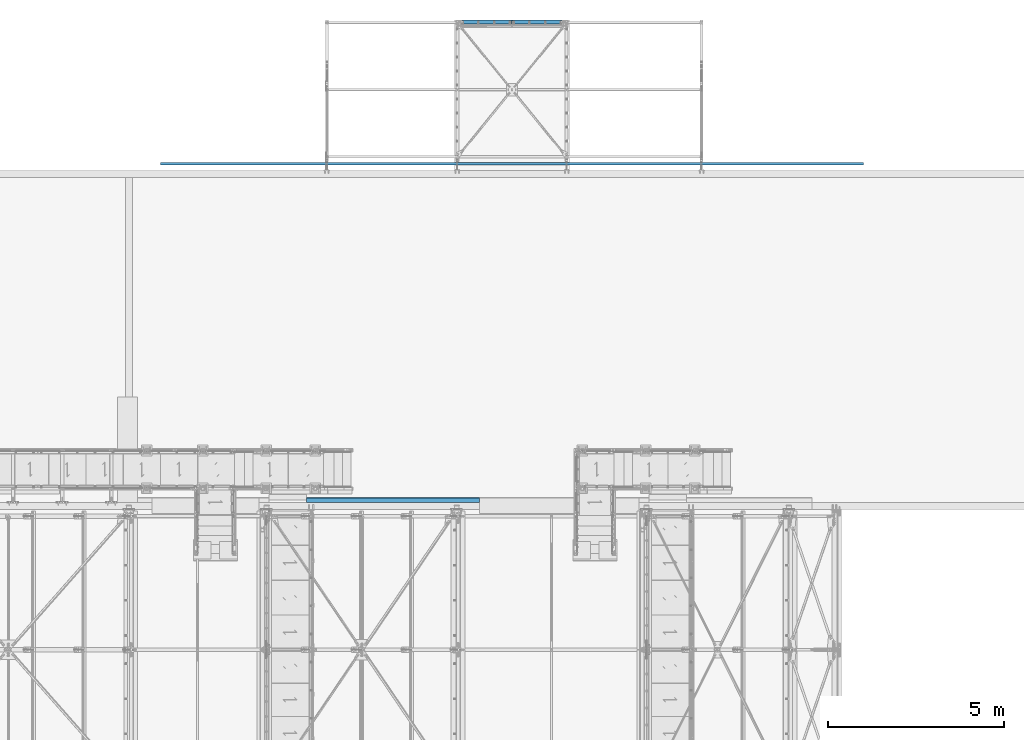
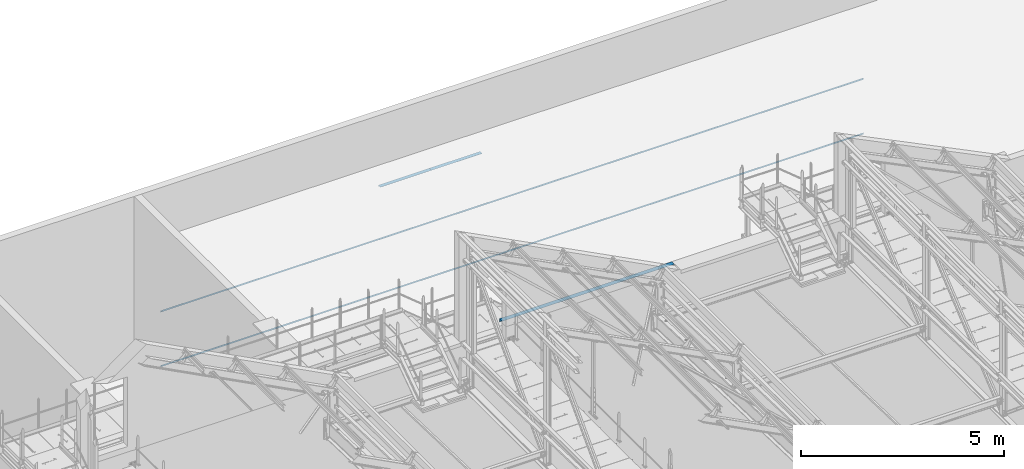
# One storey, part 349 of 362: 5 beams, 5 elements without a shape of their own.
"""IFC2X3 building model written with IfcOpenShell, lengths in millimetres."""

import ifcopenshell
import ifcopenshell.guid

model = None  # the IFC model being written
_history = None  # IfcOwnerHistory: only IFC2X3 demands one
_inside = {}  # id of a spatial element -> (the spatial element, [elements in it])
_under = {}  # id of a project, library or spatial element -> (it, [spatial elements below it])
_declared = {}  # id of a project -> (the project, [libraries it declares])
_typed = {}  # id of a type object -> (the type object, [elements of that type])
_made_of = {}  # id of a material, layer set ... -> (it, [elements and type objects made of it])


def new_model(schema):
    """Start an empty IFC model of exactly this schema.

    Asked for "IFC4X3", IfcOpenShell would pick the latest addendum, in which some entities
    have other attributes; the version numbers below select the first issue.
    IFC2X3 requires an IfcOwnerHistory on every rooted entity: one is made here for all.
    """
    global model, _history
    if schema == "IFC4X3":
        model = ifcopenshell.file(schema_version=(4, 3, 0, 0))
    else:
        model = ifcopenshell.file(schema=schema)
    _inside.clear()
    _under.clear()
    _declared.clear()
    _typed.clear()
    _made_of.clear()
    _history = None
    if model.schema == "IFC2X3":
        org = make("IfcOrganization", Name="unknown")
        user = make(
            "IfcPersonAndOrganization",
            ThePerson=make("IfcPerson", FamilyName="unknown"),
            TheOrganization=org,
        )
        app = make(
            "IfcApplication",
            ApplicationDeveloper=org,
            Version="unknown",
            ApplicationFullName="unknown",
            ApplicationIdentifier="unknown",
        )
        _history = make(
            "IfcOwnerHistory",
            OwningUser=user,
            OwningApplication=app,
            ChangeAction="ADDED",
            CreationDate=0,
        )
    return model


def make(cls, **values):
    """One entity of the class cls with the attributes given. An attribute that is None is left unset."""
    return model.create_entity(
        cls, **{name: value for name, value in values.items() if value is not None}
    )


def rooted(cls, **values):
    """An entity with a GlobalId (a new one), such as an element, a storey or a relation."""
    return make(cls, GlobalId=ifcopenshell.guid.new(), OwnerHistory=_history, **values)


def si_unit(unit_type, name, prefix=None):
    """IfcSIUnit, for example si_unit("LENGTHUNIT", "METRE", prefix="MILLI")."""
    return make("IfcSIUnit", UnitType=unit_type, Prefix=prefix, Name=name)


def assignment(units):
    """IfcUnitAssignment: the units of a project."""
    return None if units is None else make("IfcUnitAssignment", Units=units)


def point(xyz):
    """IfcCartesianPoint."""
    return None if xyz is None else make("IfcCartesianPoint", Coordinates=xyz)


def direction(xyz):
    """IfcDirection."""
    return None if xyz is None else make("IfcDirection", DirectionRatios=xyz)


def frame(location, z_axis=None, x_axis=None):
    """IfcAxis2Placement3D, a coordinate frame: its origin and axes. An axis left out is left unset."""
    return make(
        "IfcAxis2Placement3D",
        Location=point(location),
        Axis=direction(z_axis),
        RefDirection=direction(x_axis),
    )


def origin_with_axes():
    """The frame at (0, 0, 0) with the z axis (0, 0, 1) and the x axis (1, 0, 0) written out."""
    return frame((0.0, 0.0, 0.0), z_axis=(0.0, 0.0, 1.0), x_axis=(1.0, 0.0, 0.0))


def place(relative_to, where):
    """IfcLocalPlacement: puts the frame where relative to a parent placement (None: the world)."""
    return make(
        "IfcLocalPlacement", PlacementRelTo=relative_to, RelativePlacement=where
    )


def context(
    kind, dimensions, precision=None, world=None, true_north=None, identifier=None
):
    """IfcGeometricRepresentationContext, for example the 3D "Model" context."""
    return make(
        "IfcGeometricRepresentationContext",
        ContextIdentifier=identifier,
        ContextType=kind,
        CoordinateSpaceDimension=dimensions,
        Precision=precision,
        WorldCoordinateSystem=world,
        TrueNorth=true_north,
    )


def subcontext(parent, identifier, kind, view, scale=None):
    """IfcGeometricRepresentationSubContext, for example "Body" below "Model"."""
    return make(
        "IfcGeometricRepresentationSubContext",
        ContextIdentifier=identifier,
        ContextType=kind,
        ParentContext=parent,
        TargetScale=scale,
        TargetView=view,
    )


def project(units=None, contexts=None):
    """IfcProject with its units and contexts."""
    return rooted(
        "IfcProject",
        Name="project",
        RepresentationContexts=contexts,
        UnitsInContext=assignment(units),
    )


def spatial(cls, under=None, at=None, **own):
    """A site, building, storey or space (cls), placed at a placement, below another one or the project."""
    s = rooted(cls, ObjectPlacement=at, **own)
    if under is not None:
        _under.setdefault(under.id(), (under, []))[1].append(s)
    return s


def faces_of(points, faces, orient=None, outer=None):
    """IfcFace entities. A face is a list of loops; a loop is a list of indices into points, from 0.

    orient and outer hold one flag for each loop. By default every Orientation is true, the
    first loop of a face is its IfcFaceOuterBound and the others are IfcFaceBound.
    """
    made = []
    for i, loops in enumerate(faces):
        bounds = []
        for j, loop in enumerate(loops):
            is_outer = j == 0 if outer is None else outer[i][j]
            bounds.append(
                make(
                    "IfcFaceOuterBound" if is_outer else "IfcFaceBound",
                    Bound=make("IfcPolyLoop", Polygon=[points[k] for k in loop]),
                    Orientation=True if orient is None else orient[i][j],
                )
            )
        made.append(make("IfcFace", Bounds=bounds))
    return made


def faceted_brep(points, faces, orient=None, outer=None, voids=None):
    """IfcFacetedBrep: a solid bounded by flat faces; with voids (closed shells), ...WithVoids."""
    shared = [point(p) for p in points]
    hull = make("IfcClosedShell", CfsFaces=faces_of(shared, faces, orient, outer))
    if voids is None:
        return make("IfcFacetedBrep", Outer=hull)
    return make(
        "IfcFacetedBrepWithVoids",
        Outer=hull,
        Voids=[
            make(cls, CfsFaces=faces_of(shared, fs, o, b)) for cls, fs, o, b in voids
        ],
    )


def shape(context_of_items, identifier, shape_type, items):
    """IfcShapeRepresentation: the items that make up one representation, for example the "Body"."""
    return make(
        "IfcShapeRepresentation",
        ContextOfItems=context_of_items,
        RepresentationIdentifier=identifier,
        RepresentationType=shape_type,
        Items=items,
    )


def material(Name=None, Category=None):
    """IfcMaterial."""
    return make("IfcMaterial", Name=Name, Category=Category)


def made_of(thing, what):
    """Note that an element or type object is made of a material, layer set ...; save() writes the relation."""
    if what is not None:
        _made_of.setdefault(what.id(), (what, []))[1].append(thing)
    return thing


def type_object(cls, material=None, **own):
    """A type object (cls), such as IfcWallType, which elements share."""
    return made_of(rooted(cls, **own), material)


def element(
    cls,
    number,
    at=None,
    inside=None,
    cuts=None,
    type_object=None,
    material=None,
    context=None,
    identifier="Body",
    shape_type=None,
    held_by="IfcProductDefinitionShape",
    body=None,
    shapes=None,
    **own,
):
    """One element of the class cls, such as IfcWall. Its Tag is "e" and its number.

    at: its placement. inside: the storey or other place that contains it. cuts: it is an
    opening in that element (IfcRelVoidsElement). A single representation is given by context,
    identifier, shape_type and body (its items); several are given by shapes. held_by: the class
    of the entity that holds the representations. save() writes the other relations.
    """
    e = rooted(cls, Tag="e%d" % number, ObjectPlacement=at, **own)
    if body is not None:
        shapes = [shape(context, identifier, shape_type, body)]
    if shapes is not None:
        e.Representation = make(held_by, Representations=shapes)
    if inside is not None:
        _inside.setdefault(inside.id(), (inside, []))[1].append(e)
    if cuts is not None:
        rooted(
            "IfcRelVoidsElement", RelatingBuildingElement=cuts, RelatedOpeningElement=e
        )
    if type_object is not None:
        _typed.setdefault(type_object.id(), (type_object, []))[1].append(e)
    return made_of(e, material)


def aggregate(whole, parts):
    """IfcRelAggregates: a whole, such as a stair, and the parts it consists of."""
    return rooted("IfcRelAggregates", RelatingObject=whole, RelatedObjects=parts)


def save(model, path):
    """Write the relations noted so far, then the file.

    IfcRelAggregates (storeys below a building ...), IfcRelContainedInSpatialStructure (elements
    in a storey), IfcRelDefinesByType, IfcRelAssociatesMaterial and IfcRelDeclares: one each for
    every whole, place, type object, material and project.
    """
    for whole, parts in _under.values():
        aggregate(whole, parts)
    for where, things in _inside.values():
        rooted(
            "IfcRelContainedInSpatialStructure",
            RelatedElements=things,
            RelatingStructure=where,
        )
    for kind, things in _typed.values():
        rooted("IfcRelDefinesByType", RelatedObjects=things, RelatingType=kind)
    for what, things in _made_of.values():
        rooted("IfcRelAssociatesMaterial", RelatedObjects=things, RelatingMaterial=what)
    for by, libraries in _declared.values():
        rooted("IfcRelDeclares", RelatingContext=by, RelatedDefinitions=libraries)
    model.write(path)


model = new_model("IFC2X3")

# Units and contexts
model_context = context("Model", 3, precision=1e-05, world=origin_with_axes())
body_context = subcontext(model_context, "Body", "Model", "MODEL_VIEW")
ifc_project = project(units=[si_unit("LENGTHUNIT", "METRE", prefix="MILLI"), si_unit("AREAUNIT", "SQUARE_METRE"), si_unit("VOLUMEUNIT", "CUBIC_METRE"), si_unit("MASSUNIT", "GRAM", prefix="KILO"), si_unit("TIMEUNIT", "SECOND"), si_unit("PLANEANGLEUNIT", "RADIAN"), si_unit("SOLIDANGLEUNIT", "STERADIAN"), si_unit("THERMODYNAMICTEMPERATUREUNIT", "DEGREE_CELSIUS"), si_unit("LUMINOUSINTENSITYUNIT", "LUMEN")], contexts=[model_context])

# Site, building, storey
site_placement = place(None, origin_with_axes())
site = spatial("IfcSite", under=ifc_project, at=site_placement, Name="Undefined", CompositionType="ELEMENT")
building_placement = place(site_placement, origin_with_axes())
building = spatial("IfcBuilding", under=site, at=building_placement, Name="Undefined", CompositionType="ELEMENT")
storey_placement = place(building_placement, origin_with_axes())
storey = spatial("IfcBuildingStorey", under=building, at=storey_placement, Name="Undefined", CompositionType="ELEMENT", Elevation=0.0)

# Assembly, beam
assembly_1_placement = place(storey_placement, origin_with_axes())
assembly_1 = element("IfcElementAssembly", 1, at=assembly_1_placement, inside=storey, AssemblyPlace="NOTDEFINED", PredefinedType="NOTDEFINED")
ifc_material = material(Name="Undefined/S235-E24")
beam_type_1 = type_object("IfcBeamType", Name="PL1*4921.5", PredefinedType="NOTDEFINED")
beam_1_placement = place(assembly_1_placement, frame((27062.2500000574, 15725.5518131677, 8490.00255378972), z_axis=(-1.0, 0.0, 0.0), x_axis=(0.0, -0.104503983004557, 0.994524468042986)))
beam_1 = element("IfcBeam", 2, at=beam_1_placement, type_object=beam_type_1, material=ifc_material, Name="COIFFE", ObjectType="PL1*4921.5", context=body_context, shape_type="Brep", body=[
    faceted_brep([(1.21872290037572e-10, -0.5, -2460.75), (1.21872290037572e-10, -0.5, 2460.75), (-1.24600774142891e-10, 0.5, 2460.75), (-1.24600774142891e-10, 0.5, -2460.75), (9.99994928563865, 0.500000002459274, 2460.75), (9.99994928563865, 0.500000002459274, -2460.75), (10.0523447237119, -0.499999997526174, -2460.75), (10.0523447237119, -0.499999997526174, 2460.75), (99.5071476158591, 9.90535807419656, 2460.75), (99.5071476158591, 9.90535807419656, -2460.75), (98.6389784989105, 8.80862575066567, -2460.75), (98.6389784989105, 8.80862575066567, 2460.75), (116.598834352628, -124.046522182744, 2460.75), (116.598834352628, -124.046522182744, -2460.75), (115.606876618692, -124.173091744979, 2460.75), (115.606876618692, -124.173091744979, -2460.75)], [[[0, 1, 2, 3]], [[3, 2, 4, 5]], [[1, 0, 6, 7]], [[5, 4, 8, 9]], [[7, 6, 10, 11]], [[9, 8, 12, 13]], [[8, 4, 2, 1, 7, 11, 14, 12]], [[11, 10, 15, 14]], [[10, 6, 0, 3, 5, 9, 13, 15]], [[14, 15, 13, 12]]]),
])
aggregate(assembly_1, [beam_1])

assembly_2_placement = place(storey_placement, origin_with_axes())
assembly_2 = element("IfcElementAssembly", 3, at=assembly_2_placement, inside=storey, AssemblyPlace="NOTDEFINED", PredefinedType="NOTDEFINED")
beam_type_2 = type_object("IfcBeamType", Name="PL1*20000", PredefinedType="NOTDEFINED")
beam_2_placement = place(assembly_2_placement, frame((30452.9999822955, 25256.8676920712, 4458.83811292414), z_axis=(-1.0, 0.0, 0.0), x_axis=(0.0, 0.707106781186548, -0.707106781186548)))
beam_2 = element("IfcBeam", 4, at=beam_2_placement, type_object=beam_type_2, material=ifc_material, Name="BAVETTE", ObjectType="PL1*20000", context=body_context, shape_type="Brep", body=[
    faceted_brep([(-4.21823642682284e-09, -0.499999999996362, -10000.0), (4.21459844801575e-09, -0.5, 10000.0), (4.22005541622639e-09, 0.499999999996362, 10000.0), (-4.2127794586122e-09, 0.5, -10000.0), (11.9999994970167, 0.49999999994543, 10000.0), (11.9999994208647, 0.49999999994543, -10000.0), (9.58583235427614, -0.500000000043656, -10000.0), (9.58583243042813, -0.500000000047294, 10000.0), (-23.3547165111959, -34.8556789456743, 9999.99999999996), (-23.3547164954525, -34.8556789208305, -10000.0), (-23.4070299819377, -33.4937610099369, -10000.0), (-23.4070299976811, -33.4937610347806, 9999.99999999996), (-72.852191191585, 7.57072793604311, 9999.99999999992), (-72.8521911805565, 7.57072794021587, -10000.0000000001), (-72.9044950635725, 8.93263761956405, -10000.0000000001), (-72.9044950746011, 8.93263761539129, 9999.99999999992), (-108.207530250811, -27.7846111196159, 9999.99999999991), (-108.207530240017, -27.7846111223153, -10000.0000000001), (-108.914637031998, -27.0775043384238, 9999.99999999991), (-108.914637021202, -27.0775043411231, -10000.0000000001)], [[[0, 1, 2, 3]], [[3, 2, 4, 5]], [[1, 0, 6, 7]], [[5, 4, 8, 9]], [[7, 6, 10, 11]], [[9, 8, 12, 13]], [[11, 10, 14, 15]], [[13, 12, 16, 17]], [[12, 8, 4, 2, 1, 7, 11, 15, 18, 16]], [[15, 14, 19, 18]], [[14, 10, 6, 0, 3, 5, 9, 13, 17, 19]], [[18, 19, 17, 16]]]),
])
aggregate(assembly_2, [beam_2])

assembly_3_placement = place(storey_placement, origin_with_axes())
assembly_3 = element("IfcElementAssembly", 5, at=assembly_3_placement, inside=storey, AssemblyPlace="NOTDEFINED", PredefinedType="NOTDEFINED")
beam_3_placement = place(assembly_3_placement, frame((30452.9999822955, 25256.8676920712, 2808.83811292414), z_axis=(-1.0, 0.0, 0.0), x_axis=(0.0, 0.707106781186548, -0.707106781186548)))
beam_3 = element("IfcBeam", 6, at=beam_3_placement, type_object=beam_type_2, material=ifc_material, Name="BAVETTE", ObjectType="PL1*20000", context=body_context, shape_type="Brep", body=[
    faceted_brep([(-4.21823642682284e-09, -0.499999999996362, -10000.0), (4.21459844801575e-09, -0.5, 10000.0), (4.22005541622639e-09, 0.499999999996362, 10000.0), (-4.2127794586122e-09, 0.5, -10000.0), (11.9999994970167, 0.49999999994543, 10000.0), (11.9999994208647, 0.49999999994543, -10000.0), (9.58583235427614, -0.500000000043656, -10000.0), (9.58583243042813, -0.500000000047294, 10000.0), (-23.3547165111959, -34.8556789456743, 9999.99999999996), (-23.3547164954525, -34.8556789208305, -10000.0), (-23.4070299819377, -33.4937610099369, -10000.0), (-23.4070299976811, -33.4937610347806, 9999.99999999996), (-72.852191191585, 7.57072793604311, 9999.99999999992), (-72.8521911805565, 7.57072794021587, -10000.0000000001), (-72.9044950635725, 8.93263761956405, -10000.0000000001), (-72.9044950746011, 8.93263761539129, 9999.99999999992), (-108.207530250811, -27.7846111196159, 9999.99999999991), (-108.207530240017, -27.7846111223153, -10000.0000000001), (-108.914637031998, -27.0775043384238, 9999.99999999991), (-108.914637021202, -27.0775043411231, -10000.0000000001)], [[[0, 1, 2, 3]], [[3, 2, 4, 5]], [[1, 0, 6, 7]], [[5, 4, 8, 9]], [[7, 6, 10, 11]], [[9, 8, 12, 13]], [[11, 10, 14, 15]], [[13, 12, 16, 17]], [[12, 8, 4, 2, 1, 7, 11, 15, 18, 16]], [[15, 14, 19, 18]], [[14, 10, 6, 0, 3, 5, 9, 13, 17, 19]], [[18, 19, 17, 16]]]),
])
aggregate(assembly_3, [beam_3])

assembly_4_placement = place(storey_placement, origin_with_axes())
assembly_4 = element("IfcElementAssembly", 7, at=assembly_4_placement, inside=storey, AssemblyPlace="NOTDEFINED", PredefinedType="NOTDEFINED")
beam_type_3 = type_object("IfcBeamType", Name="PL3*1450", PredefinedType="NOTDEFINED")
beam_4_placement = place(assembly_4_placement, frame((31178.9999548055, 29205.0790678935, 2838.32713546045), z_axis=(-1.0, 0.0, 0.0), x_axis=(-6.99999093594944e-09, 0.998630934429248, -0.0523092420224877)))
beam_4 = element("IfcBeam", 8, at=beam_4_placement, type_object=beam_type_3, material=ifc_material, Name="FEUILLURE", ObjectType="PL3*1450", context=body_context, shape_type="Brep", body=[
    faceted_brep([(5.62795321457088e-09, -1.50000000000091, -725.0), (5.95173332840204e-09, -1.50000000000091, 725.0), (-5.6206772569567e-09, 1.49999999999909, 725.0), (-5.94445737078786e-09, 1.49999999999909, -725.0), (112.153024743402, 1.50000043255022, 724.999999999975), (112.153024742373, 1.50000043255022, -725.000000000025), (114.999994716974, -1.49999955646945, -725.000000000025), (114.999994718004, -1.49999955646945, 724.999999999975), (114.619563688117, 48.588472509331, 724.999999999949), (114.619563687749, 48.5884725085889, -725.000000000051), (117.61545649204, 48.4315447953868, 724.999999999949), (117.615456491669, 48.4315447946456, -725.000000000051)], [[[0, 1, 2, 3]], [[3, 2, 4, 5]], [[1, 0, 6, 7]], [[5, 4, 8, 9]], [[4, 2, 1, 7, 10, 8]], [[7, 6, 11, 10]], [[6, 0, 3, 5, 9, 11]], [[10, 11, 9, 8]]]),
])
aggregate(assembly_4, [beam_4])

assembly_5_placement = place(storey_placement, origin_with_axes())
assembly_5 = element("IfcElementAssembly", 9, at=assembly_5_placement, inside=storey, AssemblyPlace="NOTDEFINED", PredefinedType="NOTDEFINED")
beam_5_placement = place(assembly_5_placement, frame((29726.9999548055, 29205.0790678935, 2838.32713546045), z_axis=(-1.0, 0.0, 0.0), x_axis=(-6.99999093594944e-09, 0.998630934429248, -0.0523092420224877)))
beam_5 = element("IfcBeam", 10, at=beam_5_placement, type_object=beam_type_3, material=ifc_material, Name="FEUILLURE", ObjectType="PL3*1450", context=body_context, shape_type="Brep", body=[
    faceted_brep([(5.62795321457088e-09, -1.50000000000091, -725.0), (5.95173332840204e-09, -1.50000000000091, 725.0), (-5.6206772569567e-09, 1.49999999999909, 725.0), (-5.94445737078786e-09, 1.49999999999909, -725.0), (112.153024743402, 1.50000043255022, 724.999999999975), (112.153024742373, 1.50000043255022, -725.000000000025), (114.999994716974, -1.49999955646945, -725.000000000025), (114.999994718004, -1.49999955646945, 724.999999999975), (114.619563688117, 48.588472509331, 724.999999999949), (114.619563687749, 48.5884725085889, -725.000000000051), (117.61545649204, 48.4315447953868, 724.999999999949), (117.615456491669, 48.4315447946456, -725.000000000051)], [[[0, 1, 2, 3]], [[3, 2, 4, 5]], [[1, 0, 6, 7]], [[5, 4, 8, 9]], [[4, 2, 1, 7, 10, 8]], [[7, 6, 11, 10]], [[6, 0, 3, 5, 9, 11]], [[10, 11, 9, 8]]]),
])
aggregate(assembly_5, [beam_5])

save(model, "model.ifc")
